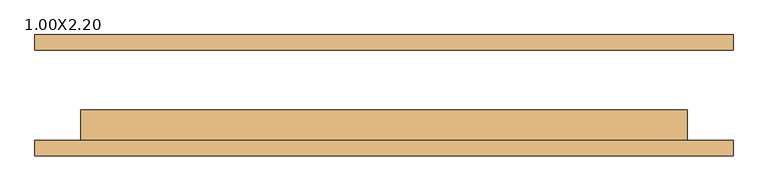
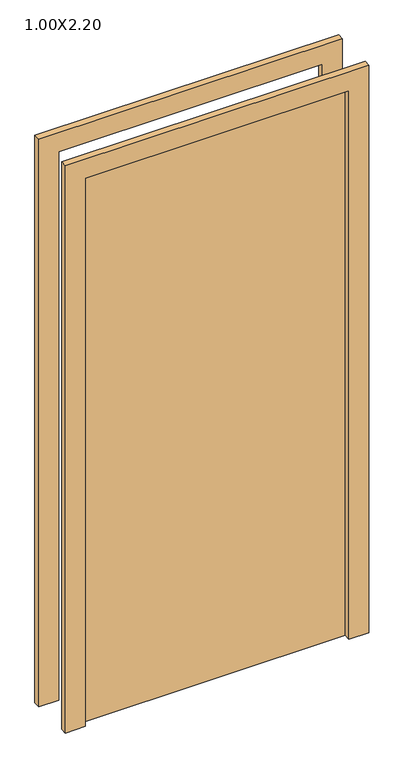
"""IFC4 building model written with IfcOpenShell, lengths in millimetres: door geometry, M_Folha única : 1.00X2.20."""

from ifc_helpers import new_model, si_unit, frame, origin, origin_with_axes, place, context, project, spatial, polyline, outline, extrude, source, transform, mapped, element, save


def door_1_00x2_20_66704a89(model_context):
    return source(origin(), model_context, "Body", "SweptSolid", [
        extrude(outline(polyline([(2276.0, -576.0), (0.0, -576.0), (0.0, -500.0), (2200.0, -500.0), (2200.0, 500.0), (0.0, 500.0), (0.0, 576.0), (2276.0, 576.0), (2276.0, -576.0)])), frame((0.0, -100.0, 0.0), z_axis=(0.0, 1.0, 0.0), x_axis=(0.0, 0.0, 1.0)), (0.0, 0.0, 1.0), 25.0),
        extrude(outline(polyline([(2276.0, 576.0), (2276.0, -576.0), (0.0, -576.0), (0.0, -500.0), (2200.0, -500.0), (2200.0, 500.0), (0.0, 500.0), (0.0, 576.0), (2276.0, 576.0)])), frame((0.0, 75.0, 0.0), z_axis=(0.0, 1.0, 0.0), x_axis=(0.0, 0.0, 1.0)), (0.0, 0.0, 1.0), 25.0),
        extrude(outline(polyline([(500.0, -24.0), (500.0, -75.0), (-500.0, -75.0), (-500.0, -24.0), (500.0, -24.0)])), origin_with_axes(), (0.0, 0.0, 1.0), 2200.0),
    ])


if __name__ == "__main__":
    model = new_model("IFC4")
    model_context = context("Model", 3, world=origin())
    ifc_project = project(units=[si_unit("LENGTHUNIT", "METRE", prefix="MILLI")], contexts=[model_context])
    site = spatial("IfcSite", under=ifc_project)
    building = spatial("IfcBuilding", under=site)
    placement = place(None, origin())
    door_1_00x2_20_shape = door_1_00x2_20_66704a89(model_context)
    element("IfcDoor", 1, ObjectType="M_Folha única : 1.00X2.20", at=placement, inside=building, context=model_context, shape_type="MappedRepresentation", body=[
        mapped(door_1_00x2_20_shape, transform((0.0, 0.0, 0.0), x_axis=(1.0, 0.0, 0.0), y_axis=(0.0, 1.0, 0.0), z_axis=(0.0, 0.0, 1.0))),
    ])
    save(model, "model.ifc")
